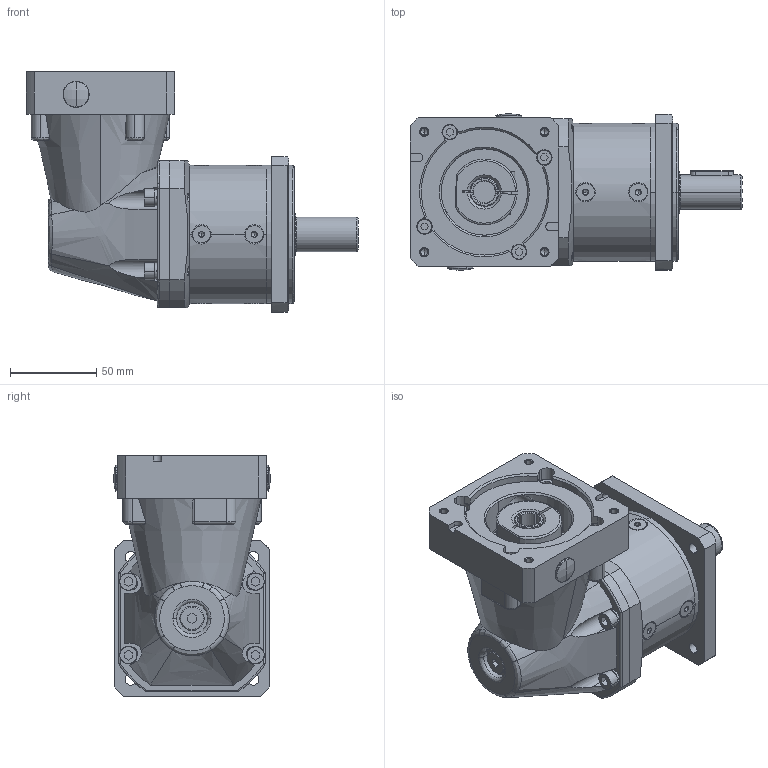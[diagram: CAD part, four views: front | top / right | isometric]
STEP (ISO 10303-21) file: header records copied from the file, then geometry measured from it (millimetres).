
FILE_DESCRIPTION (( 'STEP AP214' ), '1' );
FILE_NAME ('GSFR-080-0_ _-N034_-XX Single Stage.step', '2025-08-22T20:47:35', ( '' ), ( '' ), 'SwSTEP 2.0', 'SolidWorks 2020', '' );
FILE_SCHEMA (( 'AUTOMOTIVE_DESIGN' ));
Length unit declared in the file: millimetre
Products named in the file (1): GSFR-080-0_ _-N034_-XX Single Stage
Bounding box: 192 x 90.39 x 139 mm (x, y, z)
Volume: 662484.6 mm3; surface area: 239449.9 mm2
Topology: 60 solids, 60 shells, 1700 faces, 4389 edges, 2747 vertices
Faces by surface type: cylinder 544, plane 463, bspline 459, cone 234
Entity records: 69877 total; most frequent: CARTESIAN_POINT 30552, ORIENTED_EDGE 8546, DIRECTION 7534, EDGE_CURVE 4273, AXIS2_PLACEMENT_3D 3115, VERTEX_POINT 2747, EDGE_LOOP 1928, CIRCLE 1873
